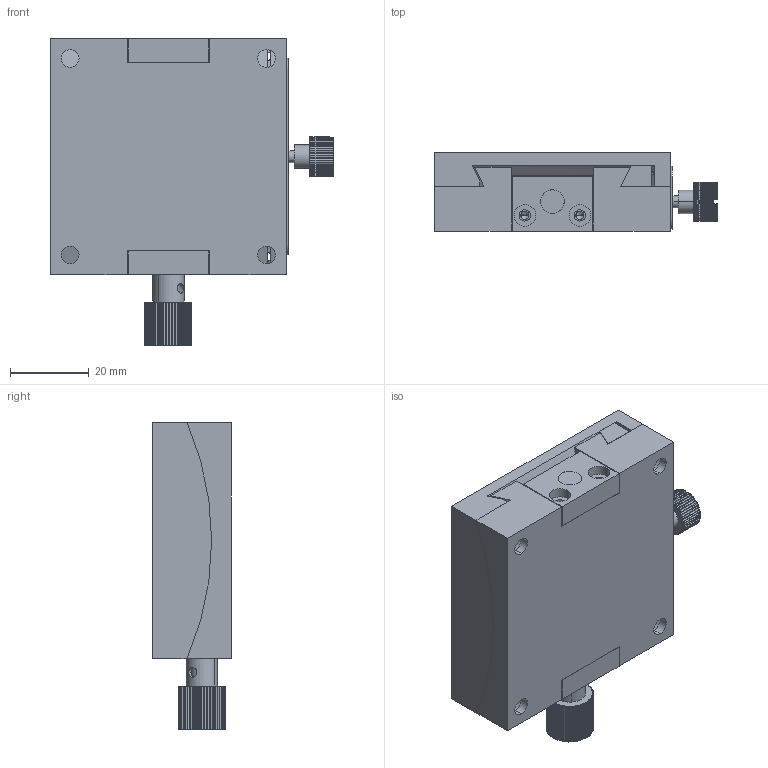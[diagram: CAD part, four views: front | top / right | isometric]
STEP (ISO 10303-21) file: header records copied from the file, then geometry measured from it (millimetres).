
FILE_DESCRIPTION (( 'STEP AP203' ), '1' );
FILE_NAME ('JT1-6060L.STEP', '2014-07-10T08:26:46', ( 'MMO' ), ( '' ), 'SwSTEP 2.0', 'SolidWorks 2013', '' );
FILE_SCHEMA (( 'CONFIG_CONTROL_DESIGN' ));
Length unit declared in the file: millimetre
Products named in the file (9): JT1-6060-03-01; JT1-6060-02-01; JT1-6060-04-01; JT1-6060-05-01; JT1-4035-07-01; JT1-4035-05-01; JT1-6060-06-01; JT1-6060L; JT1-6060-01-01
Assembly tree (9 placements, depth 2):
  JT1-6060L
    JT1-6060-01-01
    JT1-6060-03-01
    JT1-6060-02-01
    JT1-6060-04-01  x2
    JT1-6060-05-01
    JT1-4035-07-01
    JT1-4035-05-01
    JT1-6060-06-01
Bounding box: 72 x 20 x 78 mm (x, y, z)
Volume: 70392.3 mm3; surface area: 31973.8 mm2
Topology: 9 solids, 9 shells, 505 faces, 1384 edges, 888 vertices
Faces by surface type: cylinder 384, plane 72, cone 45, bspline 4
Entity records: 17239 total; most frequent: CARTESIAN_POINT 3378, DIRECTION 2994, ORIENTED_EDGE 2594, EDGE_CURVE 1297, AXIS2_PLACEMENT_3D 1238, VERTEX_POINT 858, CIRCLE 744, EDGE_LOOP 559
